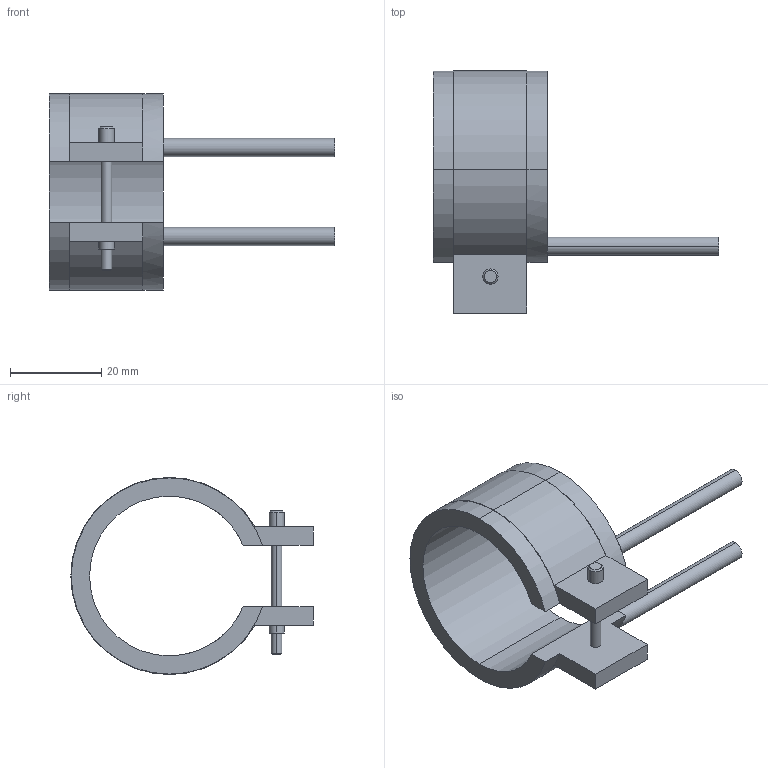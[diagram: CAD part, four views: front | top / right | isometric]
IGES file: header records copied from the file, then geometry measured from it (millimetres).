
Start section: START RECORD GO HERE.
Global section: file name: 14035025.igs; native system: DASSAULT SYSTEMES CATIA V5 R20 - www.3ds.com; preprocessor: CATIA Version 5 Release 20 ; author: Utente; organization: NB04-ASUS; date: 20210331.133847; units: millimetre
Bounding box: 62.5 x 53.1 x 43.2 mm (x, y, z)
Surface area: 8612.2 mm2 (no closed solid volume)
Topology: 0 solids, 0 shells, 45 faces, 232 edges, 232 vertices
Faces by surface type: revolution 28, plane 17
